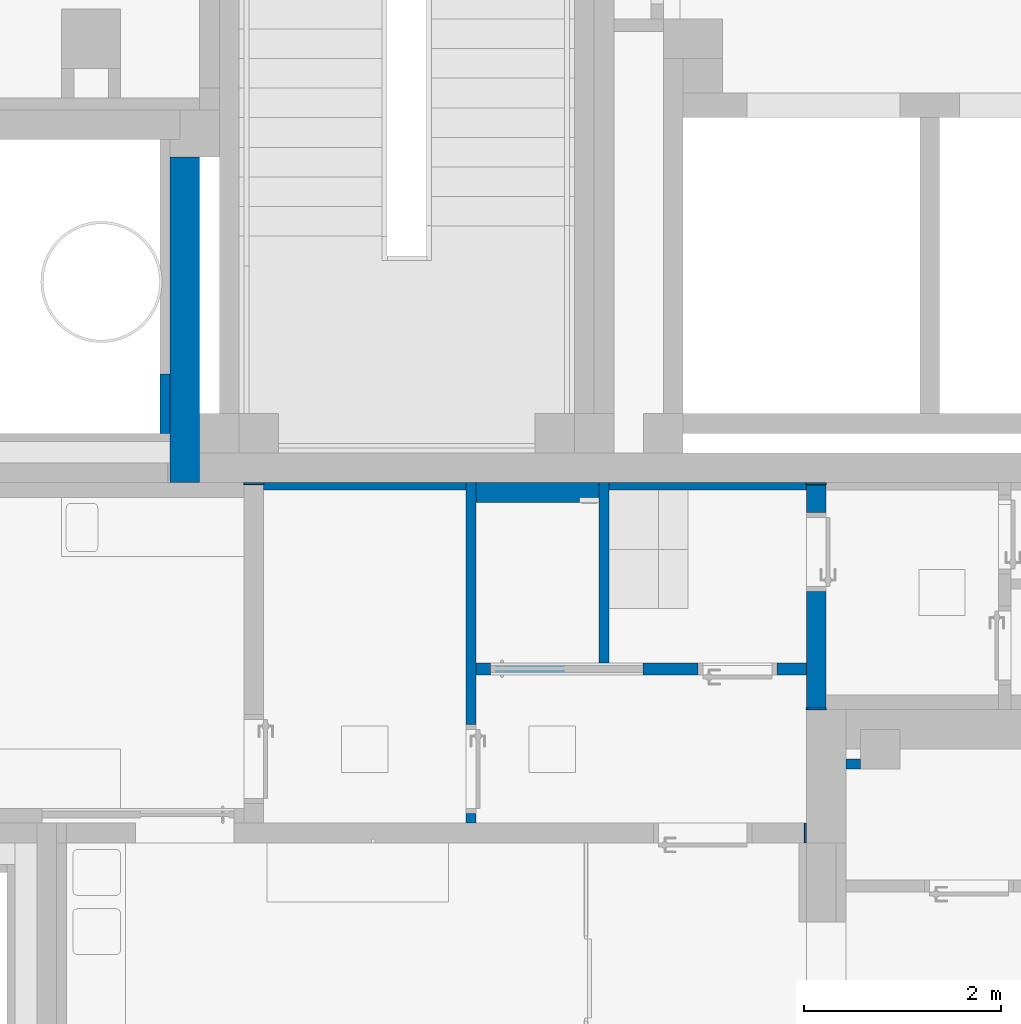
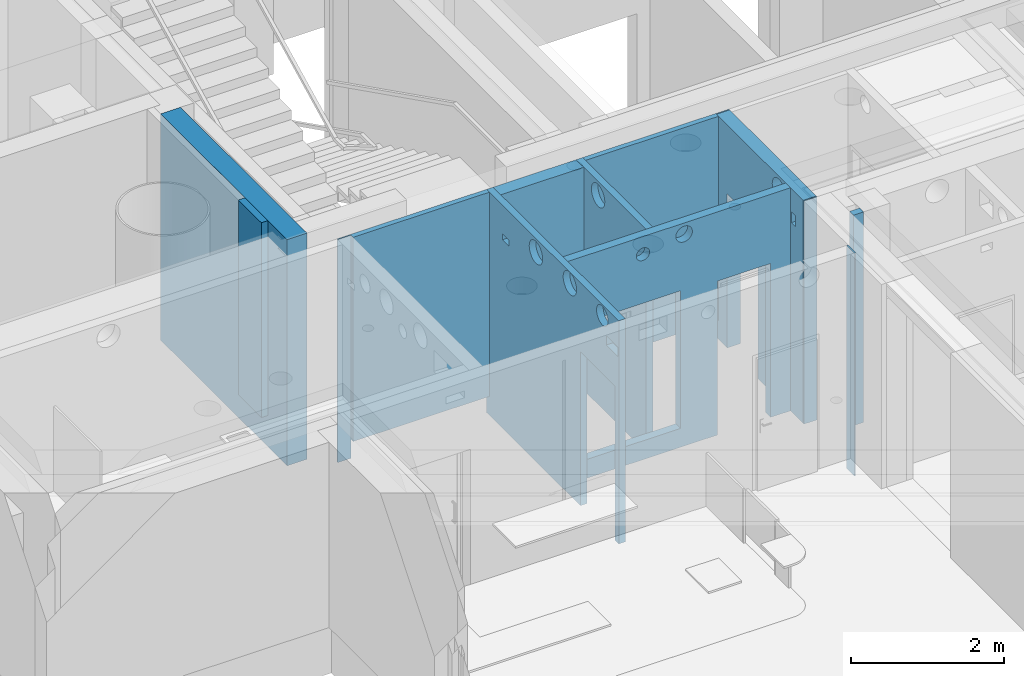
# One storey, part 28 of 140: 14 walls, 15 openings.
"""IFC4 building model written with IfcOpenShell, lengths in metres."""

from ifc_helpers import new_model, entity, si_unit, converted_unit, derived_unit, frame, frame_2d, origin, origin_with_axes, place, context, subcontext, project, spatial, polyline, rectangle, outline, extrude, material, layer, layer_set, layer_usage, element, save


model = new_model("IFC4")

# Units and contexts
model_context = context("Model", 3, precision=1e-05, world=origin())
body_context = subcontext(model_context, "Body", "Model", "MODEL_VIEW")
ifc_project = project(units=[si_unit("LENGTHUNIT", "METRE"), si_unit("AREAUNIT", "SQUARE_METRE"), si_unit("VOLUMEUNIT", "CUBIC_METRE"), si_unit("MASSUNIT", "GRAM", prefix="KILO"), converted_unit("PLANEANGLEUNIT", "DEGREE", entity("IfcPlaneAngleMeasure", 0.0174532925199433), si_unit("PLANEANGLEUNIT", "RADIAN"), dimensions=[0, 0, 0, 0, 0, 0, 0]), derived_unit("THERMALTRANSMITTANCEUNIT", [(si_unit("POWERUNIT", "WATT"), 1), (si_unit("THERMODYNAMICTEMPERATUREUNIT", "KELVIN"), -1), (si_unit("LENGTHUNIT", "METRE"), -2)]), derived_unit("VOLUMETRICFLOWRATEUNIT", [(si_unit("LENGTHUNIT", "METRE"), 3), (converted_unit("TIMEUNIT", "hour", entity("IfcTimeMeasure", 3600.0), si_unit("TIMEUNIT", "SECOND"), dimensions=[0, 0, 1, 0, 0, 0, 0]), -1), (si_unit("LENGTHUNIT", "METRE"), -1)])], contexts=[model_context])

# Site, building, storey
site_placement = place(None, origin())
site = spatial("IfcSite", under=ifc_project, at=site_placement, Name="3. ASŘ", CompositionType="ELEMENT")
building_placement = place(site_placement, origin())
building = spatial("IfcBuilding", under=site, at=building_placement, Name="Pavilon C", CompositionType="ELEMENT")
storey_placement = place(building_placement, origin())
storey = spatial("IfcBuildingStorey", under=building, at=storey_placement, Name="Půdorys 1.NP", CompositionType="ELEMENT", Elevation=0.0)

# Walls
ifc_material_1 = material(Name="STÁVAJÍC KCE")
ifc_layer_1 = layer(ifc_material_1, 0.1)
ifc_layer_set_1 = layer_set([ifc_layer_1])
ifc_layer_usage_1 = layer_usage(ifc_layer_set_1, "AXIS2", "POSITIVE", 0.0)
wall_1_placement = place(storey_placement, frame((37.2, -7.4, -0.1)))
element("IfcWall", 1, at=wall_1_placement, inside=storey, material=ifc_layer_usage_1, Name="STÁVAJÍCÍ KCE", context=body_context, shape_type="SweptSolid", body=[
    extrude(rectangle(XDim=0.15, YDim=0.1, at=frame_2d((0.075, 0.05), x_axis=(1.0, 0.0))), origin_with_axes(), (0.0, 0.0, 1.0), 3.35),
])
ifc_material_2 = material(Name="ZELEZOBETONOVÁ KCE")
ifc_layer_2 = layer(ifc_material_2, 0.3)
ifc_layer_set_2 = layer_set([ifc_layer_2])
ifc_layer_usage_2 = layer_usage(ifc_layer_set_2, "AXIS2", "POSITIVE", 0.0)
wall_2_placement = place(storey_placement, frame((30.35, -1.19999999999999, -0.1), z_axis=(0.0, 0.0, 1.0), x_axis=(0.0, -1.0, 0.0)))
element("IfcWall", 2, at=wall_2_placement, inside=storey, material=ifc_layer_usage_2, Name="ZELEZOBETONOVÁ KCE", context=body_context, shape_type="SweptSolid", body=[
    extrude(rectangle(XDim=3.30000000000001, YDim=0.3, at=frame_2d((1.65000000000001, 0.15), x_axis=(1.0, 0.0))), origin_with_axes(), (0.0, 0.0, 1.0), 3.6),
])

# Wall, openings
ifc_material_3 = material(Name="ZELEZOBETONOVÁ KCE")
ifc_layer_3 = layer(ifc_material_3, 0.2)
ifc_layer_set_3 = layer_set([ifc_layer_3])
ifc_layer_usage_3 = layer_usage(ifc_layer_set_3, "AXIS2", "POSITIVE", 0.0)
wall_3_placement = place(storey_placement, frame((36.8, -4.52, -0.3), z_axis=(0.0, 0.0, 1.0), x_axis=(0.0, -1.0, 0.0)))
wall_3 = element("IfcWall", 3, at=wall_3_placement, inside=storey, material=ifc_layer_usage_3, Name="ZELEZOBETONOVÁ KCE", context=body_context, shape_type="SweptSolid", body=[
    extrude(rectangle(XDim=2.26, YDim=0.2, at=frame_2d((1.13, 0.1), x_axis=(1.0, 0.0))), origin_with_axes(), (0.0, 0.0, 1.0), 3.55),
])
opening_1_placement = place(wall_3_placement, frame((1.08, 0.2, 0.0), z_axis=(0.0, -1.0, 0.0), x_axis=(0.0, 0.0, 1.0)))
element("IfcOpeningElement", 4, at=opening_1_placement, cuts=wall_3, Name="Dveřní otvor", ObjectType="Opening", context=body_context, shape_type="SweptSolid", body=[
    extrude(outline(polyline([(0.0, 0.8), (2.45, 0.8), (2.45, 0.0), (0.0, 0.0), (0.0, 0.8)])), origin_with_axes(), (0.0, 0.0, 1.0), 0.2),
])
opening_2_placement = place(wall_3_placement, frame((1.455, 0.0, 3.155), z_axis=(0.0, 1.0, 0.0), x_axis=(0.0, 0.0, 1.0)))
element("IfcOpeningElement", 5, at=opening_2_placement, cuts=wall_3, Name="VZT", ObjectType="Opening", context=body_context, shape_type="SweptSolid", body=[
    extrude(outline(polyline([(0.174999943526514, 0.0), (0.15670746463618, 0.000958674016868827), (0.138615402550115, 0.00382418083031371), (0.120921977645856, 0.00856512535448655), (0.103821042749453, 0.0151295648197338), (0.0874999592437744, 0.0234455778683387), (0.0721375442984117, 0.033422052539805), (0.0579021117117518, 0.0449496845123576), (0.0449496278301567, 0.0579021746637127), (0.0334220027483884, 0.0721376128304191), (0.02344553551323, 0.0875000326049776), (0.0151295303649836, 0.10382112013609), (0.00856509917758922, 0.120922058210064), (0.00382416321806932, 0.138615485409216), (0.000958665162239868, 0.156707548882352), (0.0, 0.175000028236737), (0.000958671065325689, 0.193292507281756), (0.00382417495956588, 0.211384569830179), (0.00856511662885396, 0.229077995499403), (0.0151295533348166, 0.246178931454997), (0.0234455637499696, 0.262500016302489), (0.0334220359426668, 0.277862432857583), (0.0449496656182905, 0.292097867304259), (0.0579021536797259, 0.305050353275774), (0.072137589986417, 0.316577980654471), (0.087500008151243, 0.3265544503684), (0.103821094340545, 0.3348704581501), (0.120922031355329, 0.341434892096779), (0.138615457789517, 0.346175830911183), (0.156707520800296, 0.349041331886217), (0.174999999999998, 0.35), (0.1932924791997, 0.349041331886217), (0.211384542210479, 0.346175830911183), (0.229077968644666, 0.341434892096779), (0.24617890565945, 0.3348704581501), (0.262499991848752, 0.3265544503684), (0.277862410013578, 0.316577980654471), (0.29209784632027, 0.305050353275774), (0.305050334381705, 0.292097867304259), (0.316577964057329, 0.277862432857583), (0.326554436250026, 0.262500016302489), (0.334870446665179, 0.246178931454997), (0.341434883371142, 0.229077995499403), (0.34617582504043, 0.211384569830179), (0.34904132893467, 0.193292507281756), (0.349999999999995, 0.175000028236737), (0.349041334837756, 0.156707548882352), (0.346175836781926, 0.138615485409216), (0.341434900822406, 0.120922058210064), (0.334870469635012, 0.10382112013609), (0.326554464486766, 0.0875000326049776), (0.316577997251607, 0.0721376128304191), (0.305050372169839, 0.0579021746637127), (0.292097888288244, 0.0449496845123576), (0.277862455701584, 0.033422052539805), (0.262500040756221, 0.0234455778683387), (0.246178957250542, 0.0151295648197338), (0.229078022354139, 0.00856512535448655), (0.21138459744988, 0.00382418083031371), (0.193292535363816, 0.000958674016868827), (0.174999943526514, 0.0)])), origin_with_axes(), (0.0, 0.0, 1.0), 0.2),
])
opening_3_placement = place(wall_3_placement, frame((2.065, 0.200000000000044, 3.01), z_axis=(0.0, -1.0, 0.0), x_axis=(0.0, 0.0, 1.0)))
element("IfcOpeningElement", 6, at=opening_3_placement, cuts=wall_3, Name="ZTI", ObjectType="Opening", context=body_context, shape_type="SweptSolid", body=[
    extrude(outline(polyline([(0.0, 0.11), (0.175, 0.11), (0.175, 0.0), (0.0, 0.0), (0.0, 0.11)])), origin_with_axes(), (0.0, 0.0, 1.0), 0.2),
])

# Walls
ifc_material_4 = material(Name="EPS")
ifc_layer_4 = layer(ifc_material_4, 0.02)
ifc_layer_set_4 = layer_set([ifc_layer_4])
ifc_layer_usage_4 = layer_usage(ifc_layer_set_4, "AXIS2", "POSITIVE", 0.0)
wall_4_placement = place(storey_placement, frame((36.8, -4.52, -0.3)))
element("IfcWall", 7, at=wall_4_placement, inside=storey, material=ifc_layer_usage_4, Name="EPS", context=body_context, shape_type="SweptSolid", body=[
    extrude(rectangle(XDim=0.2, YDim=0.02, at=frame_2d((0.1, 0.01), x_axis=(1.0, 0.0))), origin_with_axes(), (0.0, 0.0, 1.0), 3.55),
])
ifc_material_5 = material(Name="EPS")
ifc_layer_5 = layer(ifc_material_5, 0.02)
ifc_layer_set_5 = layer_set([ifc_layer_5])
ifc_layer_usage_5 = layer_usage(ifc_layer_set_5, "AXIS2", "POSITIVE", 0.0)
wall_5_placement = place(storey_placement, frame((36.8, -6.8, -0.3)))
element("IfcWall", 8, at=wall_5_placement, inside=storey, material=ifc_layer_usage_5, Name="EPS", context=body_context, shape_type="SweptSolid", body=[
    extrude(rectangle(XDim=0.2, YDim=0.02, at=frame_2d((0.1, 0.01), x_axis=(1.0, 0.0))), origin_with_axes(), (0.0, 0.0, 1.0), 3.55),
])
ifc_material_6 = material(Name="EPS")
ifc_layer_6 = layer(ifc_material_6, 0.02)
ifc_layer_set_6 = layer_set([ifc_layer_6])
ifc_layer_usage_6 = layer_usage(ifc_layer_set_6, "AXIS2", "POSITIVE", 0.0)
wall_6_placement = place(storey_placement, frame((36.8, -8.15, -0.3), z_axis=(0.0, 0.0, 1.0), x_axis=(0.0, 1.0, 0.0)))
element("IfcWall", 9, at=wall_6_placement, inside=storey, material=ifc_layer_usage_6, Name="EPS", context=body_context, shape_type="SweptSolid", body=[
    extrude(rectangle(XDim=0.2, YDim=0.02, at=frame_2d((0.1, 0.01), x_axis=(1.0, 0.0))), origin_with_axes(), (0.0, 0.0, 1.0), 3.55),
])
ifc_material_7 = material(Name="EPS")
ifc_layer_7 = layer(ifc_material_7, 0.02)
ifc_layer_set_7 = layer_set([ifc_layer_7])
ifc_layer_usage_7 = layer_usage(ifc_layer_set_7, "AXIS2", "POSITIVE", 0.0)
wall_7_placement = place(storey_placement, frame((31.1, -4.52000000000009, -0.3)))
element("IfcWall", 10, at=wall_7_placement, inside=storey, material=ifc_layer_usage_7, Name="EPS", context=body_context, shape_type="SweptSolid", body=[
    extrude(rectangle(XDim=0.2, YDim=0.02, at=frame_2d((0.1, 0.01), x_axis=(1.0, 0.0))), origin_with_axes(), (0.0, 0.0, 1.0), 3.55),
])
ifc_material_8 = material(Name="EPS")
ifc_layer_8 = layer(ifc_material_8, 0.1)
ifc_layer_set_8 = layer_set([ifc_layer_8])
ifc_layer_usage_8 = layer_usage(ifc_layer_set_8, "AXIS2", "POSITIVE", 0.0)
wall_8_placement = place(storey_placement, frame((30.35, -4.0, 0.4), z_axis=(0.0, 0.0, 1.0), x_axis=(0.0, 1.0, 0.0)))
element("IfcWall", 11, at=wall_8_placement, inside=storey, material=ifc_layer_usage_8, Name="EPS", context=body_context, shape_type="SweptSolid", body=[
    extrude(rectangle(XDim=0.6, YDim=0.1, at=frame_2d((0.3, 0.05), x_axis=(1.0, 0.0))), origin_with_axes(), (0.0, 0.0, 1.0), 3.1),
])

# Wall, opening
ifc_material_9 = material(Name="SDK INSTAL. PŘDSTĚNA VYSOKÁ")
ifc_layer_9 = layer(ifc_material_9, 0.2)
ifc_layer_set_9 = layer_set([ifc_layer_9])
ifc_layer_usage_9 = layer_usage(ifc_layer_set_9, "AXIS2", "POSITIVE", 0.0)
wall_9_placement = place(storey_placement, frame((34.75, -4.5, 0.0), z_axis=(0.0, 0.0, 1.0), x_axis=(-1.0, 1.18933922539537e-14, 0.0)))
wall_9 = element("IfcWall", 12, at=wall_9_placement, inside=storey, material=ifc_layer_usage_9, Name="SDK INSTAL. PŘDSTĚNA VYSOKÁ", context=body_context, shape_type="SweptSolid", body=[
    extrude(rectangle(XDim=1.3, YDim=0.2, at=frame_2d((0.65, 0.1), x_axis=(1.0, 0.0))), origin_with_axes(), (0.0, 0.0, 1.0), 3.25),
])
opening_4_placement = place(wall_9_placement, frame((0.249999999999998, 0.199999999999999, 1.0), z_axis=(1.19371179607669e-14, -1.0, 0.0), x_axis=(0.0, 0.0, 1.0)))
element("IfcOpeningElement", 13, at=opening_4_placement, cuts=wall_9, Name="Stěnová nika", ObjectType="Opening", context=body_context, shape_type="SweptSolid", body=[
    extrude(outline(polyline([(0.0, 0.2), (0.2, 0.2), (0.2, 0.0), (0.0, 0.0), (0.0, 0.2)])), origin_with_axes(), (0.0, 0.0, 1.0), 0.0500000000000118),
])

# Walls
ifc_material_10 = material(Name="SDK OPL. PROFESÍ/SDK OPL. BEZ PO")
ifc_layer_10 = layer(ifc_material_10, 0.075)
ifc_layer_set_10 = layer_set([ifc_layer_10])
ifc_layer_usage_10 = layer_usage(ifc_layer_set_10, "AXIS2", "POSITIVE", 0.0)
wall_10_placement = place(storey_placement, frame((33.35, -4.50000000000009, 0.0), z_axis=(0.0, 0.0, 1.0), x_axis=(-1.0, 0.0, 0.0)))
element("IfcWall", 14, at=wall_10_placement, inside=storey, material=ifc_layer_usage_10, Name="SDK OPL. PROFESÍ/SDK OPL. BEZ PO", context=body_context, shape_type="SweptSolid", body=[
    extrude(rectangle(XDim=2.05000000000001, YDim=0.075, at=frame_2d((1.02500000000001, 0.0375), x_axis=(1.0, 0.0))), origin_with_axes(), (0.0, 0.0, 1.0), 3.25),
])
ifc_material_11 = material(Name="SDK OPL. PROFESÍ/SDK OPL. BEZ PO")
ifc_layer_11 = layer(ifc_material_11, 0.075)
ifc_layer_set_11 = layer_set([ifc_layer_11])
ifc_layer_usage_11 = layer_usage(ifc_layer_set_11, "AXIS2", "POSITIVE", 0.0)
wall_11_placement = place(storey_placement, frame((36.8, -4.5, 0.0), z_axis=(0.0, 0.0, 1.0), x_axis=(-1.0, 0.0, 0.0)))
element("IfcWall", 15, at=wall_11_placement, inside=storey, material=ifc_layer_usage_11, Name="SDK OPL. PROFESÍ/SDK OPL. BEZ PO", context=body_context, shape_type="SweptSolid", body=[
    extrude(rectangle(XDim=2.0, YDim=0.075, at=frame_2d((1.0, 0.0375), x_axis=(1.0, 0.0))), origin_with_axes(), (0.0, 0.0, 1.0), 3.25),
])

# Wall, opening
ifc_material_12 = material(Name="SDK - 1 KCE + DVOJITÉ OPLÁŠTĚNÍ")
ifc_layer_12 = layer(ifc_material_12, 0.1)
ifc_layer_set_12 = layer_set([ifc_layer_12])
ifc_layer_usage_12 = layer_usage(ifc_layer_set_12, "AXIS2", "POSITIVE", 0.0)
wall_12_placement = place(storey_placement, frame((34.8, -6.325, -0.3), z_axis=(0.0, 0.0, 1.0), x_axis=(0.0, 1.0, 0.0)))
wall_12 = element("IfcWall", 16, at=wall_12_placement, inside=storey, material=ifc_layer_usage_12, Name="SDK - 1 KCE + DVOJITÉ OPLÁŠTĚNÍ", context=body_context, shape_type="SweptSolid", body=[
    extrude(rectangle(XDim=1.825, YDim=0.1, at=frame_2d((0.912499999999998, 0.05), x_axis=(1.0, 0.0))), origin_with_axes(), (0.0, 0.0, 1.0), 3.55),
])
opening_5_placement = place(wall_12_placement, frame((1.42794679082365, 0.1, 3.155), z_axis=(0.0, -1.0, 0.0), x_axis=(0.0, 0.0, 1.0)))
element("IfcOpeningElement", 17, at=opening_5_placement, cuts=wall_12, Name="VZT", ObjectType="Opening", context=body_context, shape_type="SweptSolid", body=[
    extrude(outline(polyline([(0.174999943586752, 0.0), (0.156707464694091, 0.000958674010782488), (0.138615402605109, 0.00382418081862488), (0.120921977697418, 0.00856512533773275), (0.103821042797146, 0.0151295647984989), (0.0874999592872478, 0.0234455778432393), (0.0721375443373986, 0.0334220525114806), (0.0579021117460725, 0.0449496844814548), (0.0449496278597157, 0.0579021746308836), (0.033422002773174, 0.0721376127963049), (0.0234455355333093, 0.0875000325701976), (0.0151295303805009, 0.103821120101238), (0.00856509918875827, 0.120922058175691), (0.00382416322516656, 0.138615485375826), (0.000958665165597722, 0.1567075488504), (0.0, 0.175000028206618), (0.000958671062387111, 0.193292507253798), (0.00382417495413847, 0.211384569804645), (0.00856511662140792, 0.229077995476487), (0.0151295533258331, 0.246178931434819), (0.0234455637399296, 0.262500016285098), (0.0334220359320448, 0.277862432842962), (0.0449496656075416, 0.292097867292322), (0.0579021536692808, 0.305050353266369), (0.0721375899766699, 0.316577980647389), (0.0875000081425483, 0.326554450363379), (0.103821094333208, 0.334870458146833), (0.1209220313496, 0.341434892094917), (0.138615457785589, 0.346175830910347), (0.156707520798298, 0.349041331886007), (0.174999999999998, 0.35), (0.193292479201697, 0.349041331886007), (0.211384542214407, 0.346175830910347), (0.229077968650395, 0.341434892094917), (0.246178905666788, 0.334870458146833), (0.262499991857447, 0.326554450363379), (0.277862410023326, 0.316577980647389), (0.292097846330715, 0.305050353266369), (0.305050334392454, 0.292097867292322), (0.316577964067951, 0.277862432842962), (0.326554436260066, 0.262500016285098), (0.334870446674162, 0.246178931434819), (0.341434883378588, 0.229077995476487), (0.346175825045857, 0.211384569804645), (0.349041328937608, 0.193292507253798), (0.349999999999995, 0.175000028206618), (0.349041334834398, 0.1567075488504), (0.346175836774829, 0.138615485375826), (0.341434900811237, 0.120922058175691), (0.334870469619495, 0.103821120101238), (0.326554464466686, 0.0875000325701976), (0.316577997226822, 0.0721376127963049), (0.30505037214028, 0.0579021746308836), (0.292097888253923, 0.0449496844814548), (0.277862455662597, 0.0334220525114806), (0.262500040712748, 0.0234455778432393), (0.246178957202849, 0.0151295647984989), (0.229078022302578, 0.00856512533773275), (0.211384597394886, 0.00382418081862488), (0.193292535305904, 0.000958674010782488), (0.174999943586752, 0.0)])), origin_with_axes(), (0.0, 0.0, 1.0), 0.1),
])

# Wall, openings
ifc_material_13 = material(Name="SDK - 1 KCE + DVOJITÉ OPLÁŠTĚNÍ")
ifc_layer_13 = layer(ifc_material_13, 0.1)
ifc_layer_set_13 = layer_set([ifc_layer_13])
ifc_layer_usage_13 = layer_usage(ifc_layer_set_13, "AXIS2", "POSITIVE", 0.0)
wall_13_placement = place(storey_placement, frame((33.45, -7.94999999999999, -0.3), z_axis=(0.0, 0.0, 1.0), x_axis=(0.0, 1.0, 0.0)))
wall_13 = element("IfcWall", 18, at=wall_13_placement, inside=storey, material=ifc_layer_usage_13, Name="SDK - 1 KCE + DVOJITÉ OPLÁŠTĚNÍ", context=body_context, shape_type="SweptSolid", body=[
    extrude(rectangle(XDim=3.4499999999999, YDim=0.1, at=frame_2d((1.72499999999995, 0.05), x_axis=(1.0, 0.0))), origin_with_axes(), (0.0, 0.0, 1.0), 3.55),
])
opening_6_placement = place(wall_13_placement, frame((0.1, 0.0, 0.0), z_axis=(0.0, 1.0, 0.0), x_axis=(0.0, 0.0, 1.0)))
element("IfcOpeningElement", 19, at=opening_6_placement, cuts=wall_13, Name="Dveřní otvor", ObjectType="Opening", context=body_context, shape_type="SweptSolid", body=[
    extrude(outline(polyline([(0.0, 0.9), (2.45, 0.9), (2.45, 0.0), (0.0, 0.0), (0.0, 0.9)])), origin_with_axes(), (0.0, 0.0, 1.0), 0.1),
])
opening_7_placement = place(wall_13_placement, frame((2.86400000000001, -2.91038304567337e-14, 3.0), z_axis=(0.0, 1.0, 0.0), x_axis=(0.0, 0.0, 1.0)))
element("IfcOpeningElement", 20, at=opening_7_placement, cuts=wall_13, Name="ZTI", ObjectType="Opening", context=body_context, shape_type="SweptSolid", body=[
    extrude(outline(polyline([(0.0, 0.17), (0.1, 0.17), (0.1, 0.0), (0.0, 0.0), (0.0, 0.17)])), origin_with_axes(), (0.0, 0.0, 1.0), 0.1),
])
opening_8_placement = place(wall_13_placement, frame((2.33499999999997, 0.1, 3.155), z_axis=(0.0, -1.0, 0.0), x_axis=(0.0, 0.0, 1.0)))
element("IfcOpeningElement", 21, at=opening_8_placement, cuts=wall_13, Name="VZT", ObjectType="Opening", context=body_context, shape_type="SweptSolid", body=[
    extrude(outline(polyline([(0.174999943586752, 0.0), (0.156707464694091, 0.000958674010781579), (0.138615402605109, 0.00382418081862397), (0.120921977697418, 0.00856512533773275), (0.103821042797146, 0.0151295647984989), (0.0874999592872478, 0.0234455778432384), (0.0721375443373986, 0.0334220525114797), (0.0579021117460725, 0.0449496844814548), (0.0449496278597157, 0.0579021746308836), (0.033422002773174, 0.0721376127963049), (0.0234455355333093, 0.0875000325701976), (0.0151295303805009, 0.103821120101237), (0.00856509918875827, 0.120922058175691), (0.00382416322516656, 0.138615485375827), (0.000958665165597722, 0.156707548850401), (0.0, 0.175000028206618), (0.000958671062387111, 0.193292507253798), (0.00382417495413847, 0.211384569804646), (0.00856511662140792, 0.229077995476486), (0.0151295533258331, 0.246178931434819), (0.0234455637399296, 0.262500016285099), (0.0334220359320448, 0.277862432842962), (0.0449496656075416, 0.292097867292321), (0.0579021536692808, 0.305050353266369), (0.0721375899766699, 0.316577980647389), (0.0875000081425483, 0.32655445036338), (0.103821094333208, 0.334870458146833), (0.1209220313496, 0.341434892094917), (0.138615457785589, 0.346175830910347), (0.156707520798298, 0.349041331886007), (0.174999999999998, 0.35), (0.193292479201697, 0.349041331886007), (0.211384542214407, 0.346175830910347), (0.229077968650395, 0.341434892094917), (0.246178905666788, 0.334870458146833), (0.262499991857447, 0.32655445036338), (0.277862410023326, 0.316577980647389), (0.292097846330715, 0.305050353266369), (0.305050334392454, 0.292097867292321), (0.316577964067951, 0.277862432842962), (0.326554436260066, 0.262500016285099), (0.334870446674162, 0.246178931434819), (0.341434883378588, 0.229077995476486), (0.346175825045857, 0.211384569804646), (0.349041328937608, 0.193292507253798), (0.349999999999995, 0.175000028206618), (0.349041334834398, 0.156707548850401), (0.346175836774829, 0.138615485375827), (0.341434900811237, 0.120922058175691), (0.334870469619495, 0.103821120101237), (0.326554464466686, 0.0875000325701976), (0.316577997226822, 0.0721376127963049), (0.30505037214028, 0.0579021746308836), (0.292097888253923, 0.0449496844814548), (0.277862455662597, 0.0334220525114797), (0.262500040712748, 0.0234455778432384), (0.246178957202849, 0.0151295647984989), (0.229078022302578, 0.00856512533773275), (0.211384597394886, 0.00382418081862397), (0.193292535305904, 0.000958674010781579), (0.174999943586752, 0.0)])), origin_with_axes(), (0.0, 0.0, 1.0), 0.1),
])
opening_9_placement = place(wall_13_placement, frame((1.44999999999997, 0.1, 3.2), z_axis=(0.0, -1.0, 0.0), x_axis=(0.0, 0.0, 1.0)))
element("IfcOpeningElement", 22, at=opening_9_placement, cuts=wall_13, Name="VZT", ObjectType="Opening", context=body_context, shape_type="SweptSolid", body=[
    extrude(outline(polyline([(0.174999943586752, 0.0), (0.156707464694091, 0.000958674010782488), (0.138615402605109, 0.00382418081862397), (0.120921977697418, 0.00856512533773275), (0.103821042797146, 0.0151295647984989), (0.0874999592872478, 0.0234455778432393), (0.0721375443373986, 0.0334220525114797), (0.0579021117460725, 0.0449496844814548), (0.0449496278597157, 0.0579021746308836), (0.033422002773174, 0.0721376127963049), (0.0234455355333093, 0.0875000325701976), (0.0151295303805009, 0.103821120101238), (0.00856509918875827, 0.12092205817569), (0.00382416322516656, 0.138615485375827), (0.000958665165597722, 0.156707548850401), (0.0, 0.175000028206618), (0.000958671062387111, 0.193292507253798), (0.00382417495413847, 0.211384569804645), (0.00856511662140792, 0.229077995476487), (0.0151295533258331, 0.246178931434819), (0.0234455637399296, 0.262500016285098), (0.0334220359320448, 0.277862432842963), (0.0449496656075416, 0.292097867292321), (0.0579021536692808, 0.30505035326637), (0.0721375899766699, 0.31657798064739), (0.0875000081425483, 0.32655445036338), (0.103821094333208, 0.334870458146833), (0.1209220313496, 0.341434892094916), (0.138615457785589, 0.346175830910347), (0.156707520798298, 0.349041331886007), (0.174999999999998, 0.35), (0.193292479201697, 0.349041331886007), (0.211384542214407, 0.346175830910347), (0.229077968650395, 0.341434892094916), (0.246178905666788, 0.334870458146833), (0.262499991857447, 0.32655445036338), (0.277862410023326, 0.31657798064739), (0.292097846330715, 0.30505035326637), (0.305050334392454, 0.292097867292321), (0.316577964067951, 0.277862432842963), (0.326554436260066, 0.262500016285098), (0.334870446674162, 0.246178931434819), (0.341434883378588, 0.229077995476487), (0.346175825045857, 0.211384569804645), (0.349041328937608, 0.193292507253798), (0.349999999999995, 0.175000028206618), (0.349041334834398, 0.156707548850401), (0.346175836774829, 0.138615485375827), (0.341434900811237, 0.12092205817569), (0.334870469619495, 0.103821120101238), (0.326554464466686, 0.0875000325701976), (0.316577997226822, 0.0721376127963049), (0.30505037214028, 0.0579021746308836), (0.292097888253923, 0.0449496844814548), (0.277862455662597, 0.0334220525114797), (0.262500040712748, 0.0234455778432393), (0.246178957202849, 0.0151295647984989), (0.229078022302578, 0.00856512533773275), (0.211384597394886, 0.00382418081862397), (0.193292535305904, 0.000958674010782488), (0.174999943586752, 0.0)])), origin_with_axes(), (0.0, 0.0, 1.0), 0.1),
])
opening_10_placement = place(wall_13_placement, frame((0.579999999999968, 0.1, 3.225), z_axis=(0.0, -1.0, 0.0), x_axis=(0.0, 0.0, 1.0)))
element("IfcOpeningElement", 23, at=opening_10_placement, cuts=wall_13, Name="VZT", ObjectType="Opening", context=body_context, shape_type="SweptSolid", body=[
    extrude(outline(polyline([(0.149999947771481, 0.0), (0.13432068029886, 0.000821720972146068), (0.11881319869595, 0.00327787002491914), (0.103647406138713, 0.00734153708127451), (0.0889894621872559, 0.0129681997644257), (0.0749999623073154, 0.0200962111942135), (0.0618321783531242, 0.028647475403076), (0.0496303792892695, 0.0385283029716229), (0.0385282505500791, 0.0496304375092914), (0.0286474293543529, 0.0618322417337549), (0.0200961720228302, 0.075000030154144), (0.0129681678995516, 0.0889895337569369), (0.00734151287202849, 0.103647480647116), (0.00327785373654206, 0.118813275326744), (0.000821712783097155, 0.134320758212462), (0.0, 0.150000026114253), (0.000821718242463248, 0.165679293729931), (0.00327786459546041, 0.181186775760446), (0.00734152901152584, 0.196352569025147), (0.0129681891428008, 0.211010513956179), (0.0200961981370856, 0.225000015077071), (0.0286474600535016, 0.238167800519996), (0.0385282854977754, 0.250369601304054), (0.0496304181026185, 0.261471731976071), (0.0618322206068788, 0.271352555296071), (0.0750000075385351, 0.279903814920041), (0.0889895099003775, 0.287031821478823), (0.103647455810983, 0.292658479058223), (0.118813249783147, 0.296722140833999), (0.134320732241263, 0.299178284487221), (0.149999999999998, 0.3), (0.165679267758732, 0.299178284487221), (0.181186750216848, 0.296722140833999), (0.196352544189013, 0.292658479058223), (0.211010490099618, 0.287031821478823), (0.22499999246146, 0.279903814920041), (0.238167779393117, 0.271352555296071), (0.250369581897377, 0.261471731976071), (0.26147171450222, 0.250369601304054), (0.271352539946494, 0.238167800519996), (0.27990380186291, 0.225000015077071), (0.287031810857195, 0.211010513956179), (0.29265847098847, 0.196352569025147), (0.296722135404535, 0.181186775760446), (0.299178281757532, 0.165679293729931), (0.299999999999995, 0.150000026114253), (0.299178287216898, 0.134320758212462), (0.296722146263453, 0.118813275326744), (0.292658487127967, 0.103647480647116), (0.287031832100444, 0.0889895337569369), (0.279903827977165, 0.075000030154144), (0.271352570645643, 0.0618322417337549), (0.261471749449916, 0.0496304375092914), (0.250369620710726, 0.0385283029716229), (0.238167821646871, 0.028647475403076), (0.22500003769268, 0.0200962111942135), (0.21101053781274, 0.0129681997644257), (0.196352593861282, 0.00734153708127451), (0.181186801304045, 0.00327787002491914), (0.165679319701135, 0.000821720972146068), (0.149999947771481, 0.0)])), origin_with_axes(), (0.0, 0.0, 1.0), 0.1),
])
opening_11_placement = place(wall_13_placement, frame((0.0249999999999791, 0.0, 2.97), z_axis=(0.0, 1.0, 0.0), x_axis=(0.0, 0.0, 1.0)))
element("IfcOpeningElement", 24, at=opening_11_placement, cuts=wall_13, Name="ZTI", ObjectType="Opening", context=body_context, shape_type="SweptSolid", body=[
    extrude(outline(polyline([(0.0, 0.3), (0.15, 0.3), (0.15, 0.0), (0.0, 0.0), (0.0, 0.3)])), origin_with_axes(), (0.0, 0.0, 1.0), 0.1),
])

ifc_material_14 = material(Name="SDK - 1 KCE + DVOJITÉ OPLÁŠTĚNÍ")
ifc_layer_14 = layer(ifc_material_14, 0.125)
ifc_layer_set_14 = layer_set([ifc_layer_14])
ifc_layer_usage_14 = layer_usage(ifc_layer_set_14, "AXIS2", "POSITIVE", 0.0)
wall_14_placement = place(storey_placement, frame((36.8, -6.325, -0.3), z_axis=(0.0, 0.0, 1.0), x_axis=(-1.0, 0.0, 0.0)))
wall_14 = element("IfcWall", 25, at=wall_14_placement, inside=storey, material=ifc_layer_usage_14, Name="SDK - 1 KCE + DVOJITÉ OPLÁŠTĚNÍ", context=body_context, shape_type="SweptSolid", body=[
    extrude(rectangle(XDim=3.35, YDim=0.125, at=frame_2d((1.675, 0.0625), x_axis=(1.0, 0.0))), origin_with_axes(), (0.0, 0.0, 1.0), 3.55),
])
opening_12_placement = place(wall_14_placement, frame((1.1, 0.125, 0.0), z_axis=(0.0, -1.0, 0.0), x_axis=(0.0, 0.0, 1.0)))
element("IfcOpeningElement", 26, at=opening_12_placement, cuts=wall_14, Name="Dveřní otvor", ObjectType="Opening", context=body_context, shape_type="SweptSolid", body=[
    extrude(outline(polyline([(0.0, 0.8), (2.45, 0.8), (2.45, 0.0), (0.0, 0.0), (0.0, 0.8)])), origin_with_axes(), (0.0, 0.0, 1.0), 0.125),
])
opening_13_placement = place(wall_14_placement, frame((3.2, 0.125, 0.3), z_axis=(0.0, -1.0, 0.0), x_axis=(0.0, 0.0, 1.0)))
element("IfcOpeningElement", 27, at=opening_13_placement, cuts=wall_14, Name="Dveřní otvor", ObjectType="Opening", context=body_context, shape_type="SweptSolid", body=[
    extrude(outline(polyline([(0.0, 1.545), (2.19, 1.545), (2.19, 0.0), (0.0, 0.0), (0.0, 1.545)])), origin_with_axes(), (0.0, 0.0, 1.0), 0.125),
])
opening_14_placement = place(wall_14_placement, frame((2.32, 0.125, 3.17), z_axis=(0.0, -1.0, 0.0), x_axis=(0.0, 0.0, 1.0)))
element("IfcOpeningElement", 28, at=opening_14_placement, cuts=wall_14, Name="ZTI", ObjectType="Opening", context=body_context, shape_type="SweptSolid", body=[
    extrude(outline(polyline([(0.1, 0.0), (0.0895471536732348, 0.000547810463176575), (0.0792088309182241, 0.00218523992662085), (0.0690983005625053, 0.00489434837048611), (0.0593263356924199, 0.00864545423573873), (0.05, 0.0133974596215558), (0.0412214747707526, 0.0190983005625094), (0.0330869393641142, 0.025685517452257), (0.0256855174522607, 0.0330869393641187), (0.0190983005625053, 0.0412214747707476), (0.0133974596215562, 0.05), (0.00864545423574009, 0.0593263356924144), (0.00489434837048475, 0.0690983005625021), (0.00218523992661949, 0.0792088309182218), (0.000547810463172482, 0.0895471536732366), (0.0, 0.1), (0.000547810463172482, 0.110452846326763), (0.00218523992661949, 0.120791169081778), (0.00489434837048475, 0.130901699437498), (0.00864545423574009, 0.140673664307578), (0.0133974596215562, 0.15), (0.0190983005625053, 0.158778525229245), (0.0256855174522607, 0.166913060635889), (0.0330869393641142, 0.174314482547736), (0.0412214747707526, 0.180901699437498), (0.05, 0.186602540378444), (0.0593263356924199, 0.191354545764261), (0.0690983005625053, 0.195105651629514), (0.0792088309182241, 0.197814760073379), (0.0895471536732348, 0.199452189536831), (0.1, 0.2), (0.110452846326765, 0.199452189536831), (0.120791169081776, 0.197814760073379), (0.130901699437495, 0.195105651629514), (0.14067366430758, 0.191354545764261), (0.15, 0.186602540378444), (0.158778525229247, 0.180901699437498), (0.166913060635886, 0.174314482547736), (0.174314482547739, 0.166913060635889), (0.180901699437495, 0.158778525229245), (0.186602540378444, 0.15), (0.19135454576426, 0.140673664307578), (0.195105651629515, 0.130901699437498), (0.197814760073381, 0.120791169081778), (0.199452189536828, 0.110452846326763), (0.2, 0.1), (0.199452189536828, 0.0895471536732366), (0.197814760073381, 0.0792088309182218), (0.195105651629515, 0.0690983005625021), (0.19135454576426, 0.0593263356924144), (0.186602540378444, 0.05), (0.180901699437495, 0.0412214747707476), (0.174314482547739, 0.0330869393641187), (0.166913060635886, 0.025685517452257), (0.158778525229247, 0.0190983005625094), (0.15, 0.0133974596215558), (0.14067366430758, 0.00864545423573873), (0.130901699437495, 0.00489434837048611), (0.120791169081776, 0.00218523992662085), (0.110452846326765, 0.000547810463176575), (0.1, 0.0)])), origin_with_axes(), (0.0, 0.0, 1.0), 0.125),
])
opening_15_placement = place(wall_14_placement, frame((1.72567356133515, 0.125, 3.25), z_axis=(0.0, -1.0, 0.0), x_axis=(0.0, 0.0, 1.0)))
element("IfcOpeningElement", 29, at=opening_15_placement, cuts=wall_14, Name="VZT", ObjectType="Opening", context=body_context, shape_type="SweptSolid", body=[
    extrude(outline(polyline([(0.125, 0.0), (0.111933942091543, 0.000684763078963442), (0.09901103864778, 0.00273154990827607), (0.0863728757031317, 0.00611793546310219), (0.0741579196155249, 0.010806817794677), (0.0625, 0.0167468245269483), (0.0515268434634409, 0.0238728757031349), (0.041358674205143, 0.0321068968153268), (0.0321068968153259, 0.0413586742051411), (0.0238728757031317, 0.0515268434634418), (0.0167468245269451, 0.0625), (0.0108068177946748, 0.0741579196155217), (0.00611793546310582, 0.0863728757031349), (0.00273154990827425, 0.0990110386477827), (0.000684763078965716, 0.111933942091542), (0.0, 0.125), (0.000684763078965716, 0.138066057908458), (0.00273154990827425, 0.150988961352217), (0.00611793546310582, 0.163627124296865), (0.0108068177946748, 0.175842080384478), (0.0167468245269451, 0.1875), (0.0238728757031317, 0.198473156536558), (0.0321068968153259, 0.208641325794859), (0.0413586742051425, 0.217893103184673), (0.0515268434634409, 0.226127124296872), (0.0625, 0.233253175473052), (0.0741579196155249, 0.239193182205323), (0.0863728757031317, 0.243882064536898), (0.09901103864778, 0.247268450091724), (0.111933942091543, 0.249315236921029), (0.125, 0.25), (0.138066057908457, 0.249315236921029), (0.15098896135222, 0.247268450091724), (0.163627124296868, 0.243882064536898), (0.175842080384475, 0.239193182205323), (0.1875, 0.233253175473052), (0.198473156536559, 0.226127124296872), (0.208641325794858, 0.217893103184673), (0.217893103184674, 0.208641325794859), (0.226127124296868, 0.198473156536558), (0.233253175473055, 0.1875), (0.239193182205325, 0.175842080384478), (0.243882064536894, 0.163627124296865), (0.247268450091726, 0.150988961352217), (0.249315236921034, 0.138066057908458), (0.25, 0.125), (0.249315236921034, 0.111933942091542), (0.247268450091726, 0.0990110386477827), (0.243882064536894, 0.0863728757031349), (0.239193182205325, 0.0741579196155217), (0.233253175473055, 0.0625), (0.226127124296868, 0.0515268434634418), (0.217893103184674, 0.0413586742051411), (0.208641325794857, 0.0321068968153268), (0.198473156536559, 0.0238728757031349), (0.1875, 0.0167468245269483), (0.175842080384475, 0.010806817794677), (0.163627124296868, 0.00611793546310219), (0.15098896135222, 0.00273154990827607), (0.138066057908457, 0.000684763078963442), (0.125, 0.0)])), origin_with_axes(), (0.0, 0.0, 1.0), 0.125),
])

save(model, "model.ifc")
